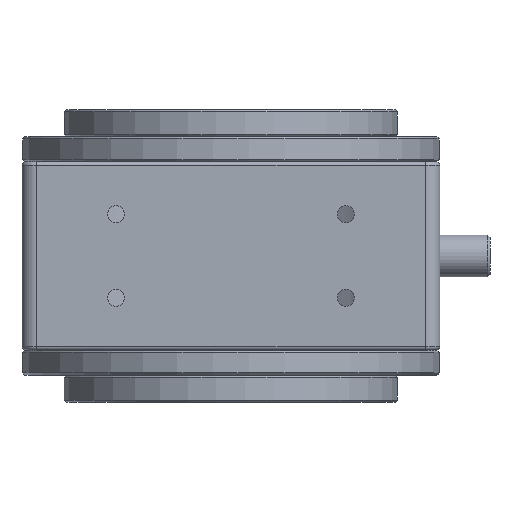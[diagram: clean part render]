
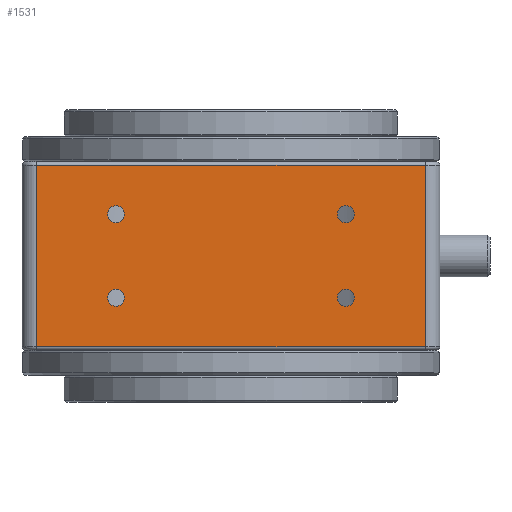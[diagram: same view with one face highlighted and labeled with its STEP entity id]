
A CAD part, front view. The second image highlights one B-rep face of the part: STEP entity #1531.
In plain terms, the highlighted planar face has unit normal (0, -1, 0).
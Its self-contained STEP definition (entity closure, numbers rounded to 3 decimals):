
#392=CARTESIAN_POINT('',(29.5,-60.,-10.0));
#393=VERTEX_POINT('',#392);
#394=CARTESIAN_POINT('',(27.5,-60.,-10.0));
#395=DIRECTION('',(0.0,1.0,0.0));
#396=DIRECTION('',(-1.0,0.0,0.0));
#397=AXIS2_PLACEMENT_3D('',#394,#395,#396);
#398=CIRCLE('',#397,2.0);
#399=EDGE_CURVE('',#393,#393,#398,.T.);
#420=CARTESIAN_POINT('',(-25.5,-60.,-10.0));
#421=VERTEX_POINT('',#420);
#422=CARTESIAN_POINT('',(-27.5,-60.,-10.0));
#423=DIRECTION('',(0.0,1.0,0.0));
#424=DIRECTION('',(-1.0,0.0,0.0));
#425=AXIS2_PLACEMENT_3D('',#422,#423,#424);
#426=CIRCLE('',#425,2.0);
#427=EDGE_CURVE('',#421,#421,#426,.T.);
#448=CARTESIAN_POINT('',(29.5,-60.,10.0));
#449=VERTEX_POINT('',#448);
#450=CARTESIAN_POINT('',(27.5,-60.,10.0));
#451=DIRECTION('',(0.0,1.0,0.0));
#452=DIRECTION('',(-1.0,0.0,0.0));
#453=AXIS2_PLACEMENT_3D('',#450,#451,#452);
#454=CIRCLE('',#453,2.0);
#455=EDGE_CURVE('',#449,#449,#454,.T.);
#476=CARTESIAN_POINT('',(-25.5,-60.,10.0));
#477=VERTEX_POINT('',#476);
#478=CARTESIAN_POINT('',(-27.5,-60.,10.0));
#479=DIRECTION('',(0.0,1.0,0.0));
#480=DIRECTION('',(-1.0,0.0,0.0));
#481=AXIS2_PLACEMENT_3D('',#478,#479,#480);
#482=CIRCLE('',#481,2.0);
#483=EDGE_CURVE('',#477,#477,#482,.T.);
#1338=CARTESIAN_POINT('',(46.5,-60.,-21.7));
#1339=VERTEX_POINT('',#1338);
#1372=CARTESIAN_POINT('',(-46.5,-60.,-21.7));
#1373=VERTEX_POINT('',#1372);
#1390=CARTESIAN_POINT('',(46.5,-60.,-21.7));
#1391=DIRECTION('',(-1.0,0.0,0.0));
#1392=VECTOR('',#1391,93.);
#1393=LINE('',#1390,#1392);
#1394=EDGE_CURVE('',#1339,#1373,#1393,.T.);
#1489=CARTESIAN_POINT('',(-50.0,-60.,0.0));
#1490=DIRECTION('',(0.0,-1.0,0.0));
#1491=DIRECTION('',(1.0,0.0,0.0));
#1492=AXIS2_PLACEMENT_3D('',#1489,#1490,#1491);
#1493=PLANE('',#1492);
#1494=ORIENTED_EDGE('',*,*,#1394,.F.);
#1495=CARTESIAN_POINT('',(46.5,-60.,21.7));
#1496=VERTEX_POINT('',#1495);
#1497=CARTESIAN_POINT('',(46.5,-60.,21.7));
#1498=DIRECTION('',(0.0,0.0,-1.0));
#1499=VECTOR('',#1498,43.4);
#1500=LINE('',#1497,#1499);
#1501=EDGE_CURVE('',#1496,#1339,#1500,.T.);
#1502=ORIENTED_EDGE('',*,*,#1501,.F.);
#1503=CARTESIAN_POINT('',(-46.5,-60.,21.7));
#1504=VERTEX_POINT('',#1503);
#1505=CARTESIAN_POINT('',(-46.5,-60.,21.7));
#1506=DIRECTION('',(1.0,0.0,0.0));
#1507=VECTOR('',#1506,93.);
#1508=LINE('',#1505,#1507);
#1509=EDGE_CURVE('',#1504,#1496,#1508,.T.);
#1510=ORIENTED_EDGE('',*,*,#1509,.F.);
#1511=CARTESIAN_POINT('',(-46.5,-60.,-21.7));
#1512=DIRECTION('',(0.0,0.0,1.0));
#1513=VECTOR('',#1512,43.4);
#1514=LINE('',#1511,#1513);
#1515=EDGE_CURVE('',#1373,#1504,#1514,.T.);
#1516=ORIENTED_EDGE('',*,*,#1515,.F.);
#1517=EDGE_LOOP('',(#1494,#1502,#1510,#1516));
#1518=FACE_OUTER_BOUND('',#1517,.T.);
#1519=ORIENTED_EDGE('',*,*,#399,.T.);
#1520=EDGE_LOOP('',(#1519));
#1521=FACE_BOUND('',#1520,.T.);
#1522=ORIENTED_EDGE('',*,*,#427,.T.);
#1523=EDGE_LOOP('',(#1522));
#1524=FACE_BOUND('',#1523,.T.);
#1525=ORIENTED_EDGE('',*,*,#455,.T.);
#1526=EDGE_LOOP('',(#1525));
#1527=FACE_BOUND('',#1526,.T.);
#1528=ORIENTED_EDGE('',*,*,#483,.T.);
#1529=EDGE_LOOP('',(#1528));
#1530=FACE_BOUND('',#1529,.T.);
#1531=ADVANCED_FACE('',(#1518,#1521,#1524,#1527,#1530),#1493,.T.);
